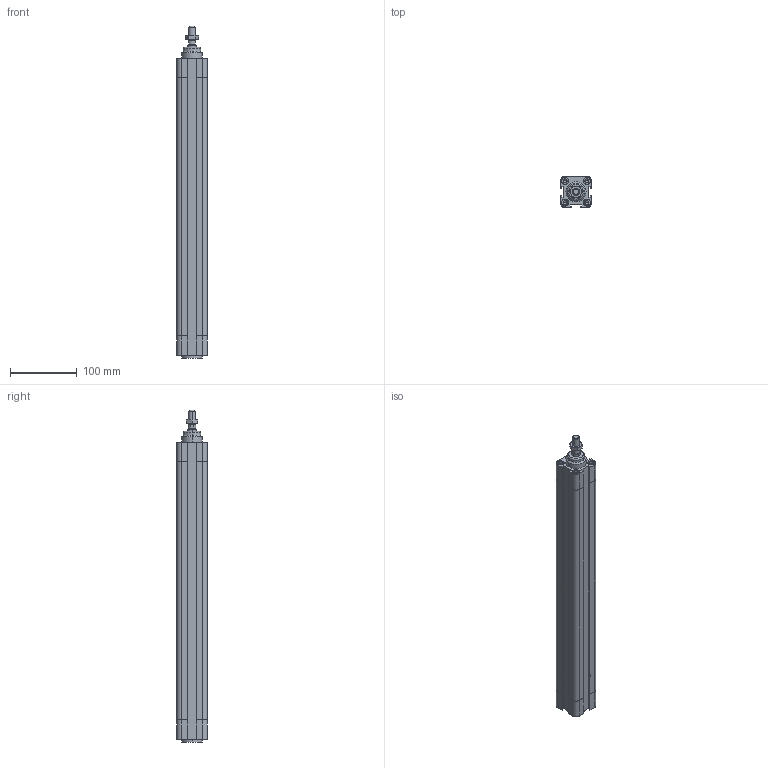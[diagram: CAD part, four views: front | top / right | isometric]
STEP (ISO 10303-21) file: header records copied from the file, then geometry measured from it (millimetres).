
FILE_DESCRIPTION((''),'2;1');
FILE_NAME('F:\Lib-3d\1380\CIL\1380_32_0350_01.stp','2004-01-07T16:00:06',('maffial1'),(''),'Autodesk Inventor 8','Autodesk Inventor 8','');
FILE_SCHEMA(('AUTOMOTIVE_DESIGN { 1 0 10303 214 1 1 1 1 }'));
Length unit declared in the file: millimetre
Products named in the file (4): 1380_32_0350_01; CPP01_32_350; CPP02_32_350; 1320_32_18F
Assembly tree (3 placements, depth 2):
  1380_32_0350_01
    CPP01_32_350
    CPP02_32_350
    1320_32_18F
Bounding box: 46 x 46 x 496 mm (x, y, z)
Volume: 838532.9 mm3; surface area: 139368.6 mm2
Topology: 3 solids, 3 shells, 244 faces, 570 edges, 356 vertices
Faces by surface type: plane 83, bspline 67, cylinder 58, cone 34, torus 2
Entity records: 7668 total; most frequent: CARTESIAN_POINT 2166, DIRECTION 1136, ORIENTED_EDGE 1108, EDGE_CURVE 554, AXIS2_PLACEMENT_3D 422, VERTEX_POINT 356, VECTOR 292, LINE 292
